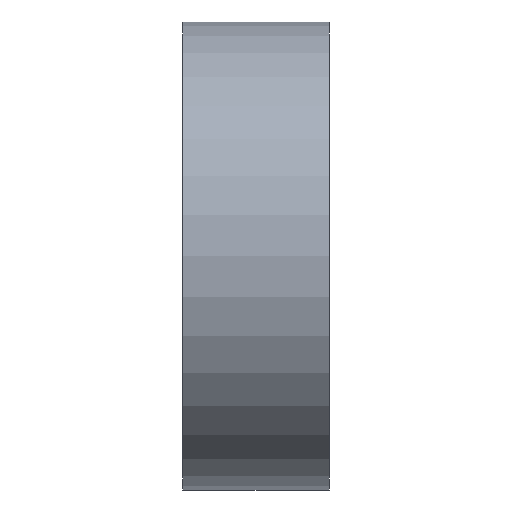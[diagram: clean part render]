
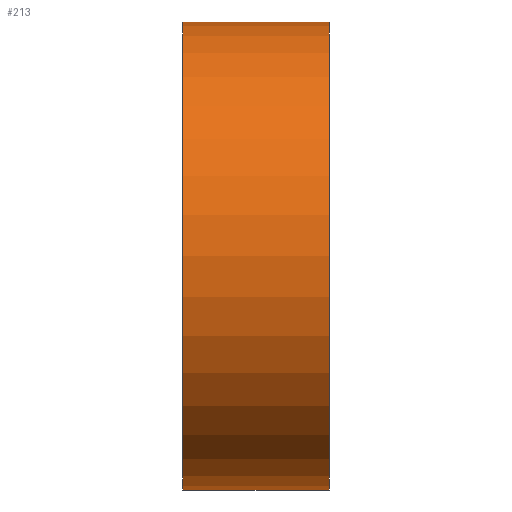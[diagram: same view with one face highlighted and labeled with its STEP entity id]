
A CAD part, front view. The second image highlights one B-rep face of the part: STEP entity #213.
In plain terms, the highlighted cylindrical face has radius 203.2 mm (diameter 406.4 mm), a full revolution.
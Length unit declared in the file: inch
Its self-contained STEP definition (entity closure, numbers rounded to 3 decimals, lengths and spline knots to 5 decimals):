
#181=CARTESIAN_POINT('',(117.91139,120.47152,0.));
#182=VERTEX_POINT('',#181);
#183=CARTESIAN_POINT('',(117.91139,112.47152,0.));
#184=DIRECTION('',(1.,0.,0.));
#185=DIRECTION('',(0.,1.,0.));
#186=AXIS2_PLACEMENT_3D('',#183,#184,#185);
#187=CIRCLE('',#186,8.);
#188=EDGE_CURVE('',#182,#182,#187,.T.);
#189=ORIENTED_EDGE('',*,*,#188,.F.);
#190=CARTESIAN_POINT('',(112.91139,120.47152,0.));
#191=VERTEX_POINT('',#190);
#192=CARTESIAN_POINT('',(115.41139,120.47152,0.));
#193=DIRECTION('',(1.,0.,0.));
#194=VECTOR('',#193,8.);
#195=LINE('',#192,#194);
#196=EDGE_CURVE('',#191,#182,#195,.T.);
#197=ORIENTED_EDGE('',*,*,#196,.F.);
#198=CARTESIAN_POINT('',(112.91139,112.47152,0.));
#199=DIRECTION('',(1.,0.,0.));
#200=DIRECTION('',(0.,1.,0.));
#201=AXIS2_PLACEMENT_3D('',#198,#199,#200);
#202=CIRCLE('',#201,8.);
#203=EDGE_CURVE('',#191,#191,#202,.T.);
#204=ORIENTED_EDGE('',*,*,#203,.T.);
#205=ORIENTED_EDGE('',*,*,#196,.T.);
#206=EDGE_LOOP('',(#189,#197,#204,#205));
#207=FACE_OUTER_BOUND('',#206,.T.);
#208=CARTESIAN_POINT('',(115.41139,112.47152,0.));
#209=DIRECTION('',(1.,0.,0.));
#210=DIRECTION('',(0.,1.,0.));
#211=AXIS2_PLACEMENT_3D('',#208,#209,#210);
#212=CYLINDRICAL_SURFACE('',#211,8.);
#213=ADVANCED_FACE('',(#207),#212,.T.);
